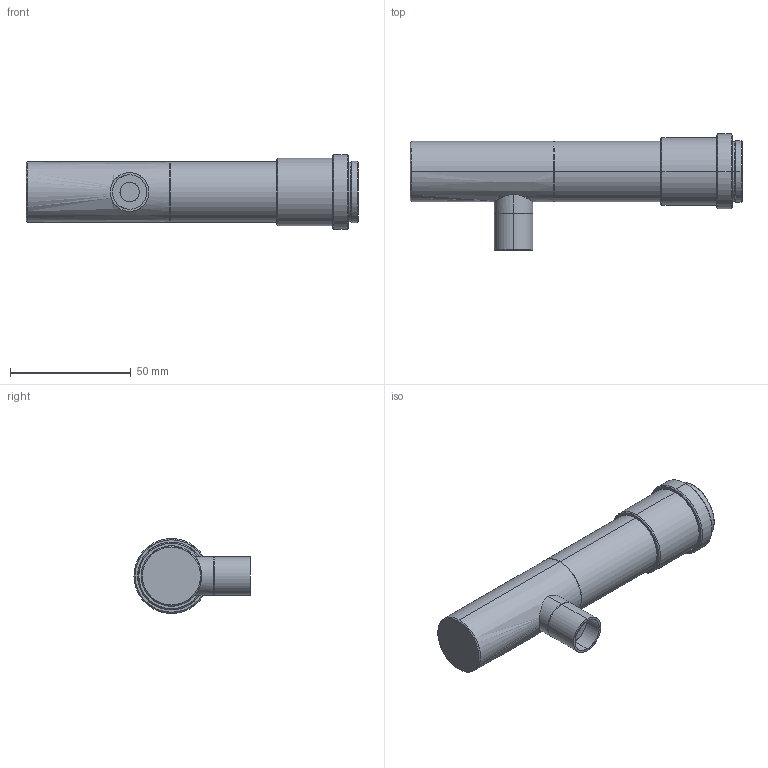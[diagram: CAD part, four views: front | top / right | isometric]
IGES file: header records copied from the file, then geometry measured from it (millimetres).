
Start section: SolidWorks IGES file using analytic representation for surfaces
Bounding box: 137.3 x 48 x 31 mm (x, y, z)
Surface area: 14150.9 mm2 (no closed solid volume)
Topology: 0 solids, 0 shells, 48 faces, 766 edges, 766 vertices
Faces by surface type: revolution 40, bspline 8
